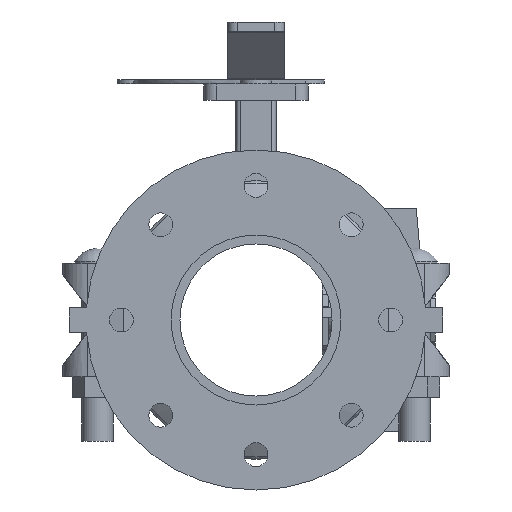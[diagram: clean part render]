
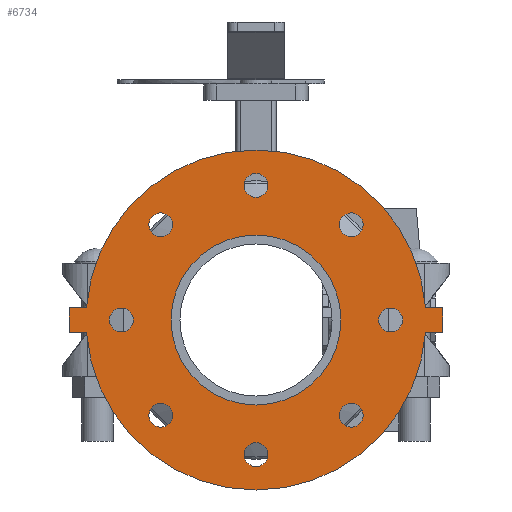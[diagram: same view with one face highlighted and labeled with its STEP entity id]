
A CAD part, front view. The second image highlights one B-rep face of the part: STEP entity #6734.
In plain terms, the highlighted planar face has unit normal (0, -1, 0) as drawn and (0, 0, -1) by its records, which use the part's own axes.
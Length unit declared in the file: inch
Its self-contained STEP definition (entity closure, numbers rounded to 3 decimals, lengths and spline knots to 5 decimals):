
#159=FACE_BOUND('',#834,.T.);
#160=FACE_BOUND('',#835,.T.);
#161=FACE_BOUND('',#836,.T.);
#162=FACE_BOUND('',#837,.T.);
#163=FACE_BOUND('',#838,.T.);
#164=FACE_BOUND('',#839,.T.);
#165=FACE_BOUND('',#840,.T.);
#166=FACE_BOUND('',#841,.T.);
#167=FACE_BOUND('',#842,.T.);
#244=PLANE('',#7299);
#462=FACE_OUTER_BOUND('',#833,.T.);
#833=EDGE_LOOP('',(#4374,#4375,#4376,#4377,#4378,#4379,#4380,#4381));
#834=EDGE_LOOP('',(#4382));
#835=EDGE_LOOP('',(#4383));
#836=EDGE_LOOP('',(#4384));
#837=EDGE_LOOP('',(#4385));
#838=EDGE_LOOP('',(#4386));
#839=EDGE_LOOP('',(#4387));
#840=EDGE_LOOP('',(#4388));
#841=EDGE_LOOP('',(#4389));
#842=EDGE_LOOP('',(#4390));
#1268=LINE('',#10213,#1787);
#1271=LINE('',#10219,#1790);
#1274=LINE('',#10224,#1793);
#1276=LINE('',#10229,#1795);
#1280=LINE('',#10236,#1799);
#1282=LINE('',#10239,#1801);
#1787=VECTOR('',#8129,0.3937);
#1790=VECTOR('',#8134,0.3937);
#1793=VECTOR('',#8139,0.3937);
#1795=VECTOR('',#8143,0.3937);
#1799=VECTOR('',#8149,0.3937);
#1801=VECTOR('',#8153,0.3937);
#2294=CIRCLE('',#7261,0.315);
#2296=CIRCLE('',#7264,0.315);
#2298=CIRCLE('',#7267,0.315);
#2300=CIRCLE('',#7270,0.315);
#2302=CIRCLE('',#7273,0.315);
#2304=CIRCLE('',#7276,0.315);
#2306=CIRCLE('',#7279,0.315);
#2308=CIRCLE('',#7282,0.315);
#2309=CIRCLE('',#7284,2.25);
#2311=CIRCLE('',#7287,4.5);
#2314=CIRCLE('',#7291,4.5);
#2681=VERTEX_POINT('',#10142);
#2683=VERTEX_POINT('',#10148);
#2685=VERTEX_POINT('',#10154);
#2687=VERTEX_POINT('',#10160);
#2689=VERTEX_POINT('',#10166);
#2691=VERTEX_POINT('',#10172);
#2693=VERTEX_POINT('',#10178);
#2695=VERTEX_POINT('',#10184);
#2696=VERTEX_POINT('',#10188);
#2698=VERTEX_POINT('',#10194);
#2700=VERTEX_POINT('',#10197);
#2702=VERTEX_POINT('',#10203);
#2705=VERTEX_POINT('',#10208);
#2706=VERTEX_POINT('',#10212);
#2708=VERTEX_POINT('',#10218);
#2710=VERTEX_POINT('',#10227);
#2711=VERTEX_POINT('',#10228);
#3329=EDGE_CURVE('',#2681,#2681,#2294,.T.);
#3332=EDGE_CURVE('',#2683,#2683,#2296,.T.);
#3335=EDGE_CURVE('',#2685,#2685,#2298,.T.);
#3338=EDGE_CURVE('',#2687,#2687,#2300,.T.);
#3341=EDGE_CURVE('',#2689,#2689,#2302,.T.);
#3344=EDGE_CURVE('',#2691,#2691,#2304,.T.);
#3347=EDGE_CURVE('',#2693,#2693,#2306,.T.);
#3350=EDGE_CURVE('',#2695,#2695,#2308,.T.);
#3351=EDGE_CURVE('',#2696,#2696,#2309,.T.);
#3355=EDGE_CURVE('',#2698,#2700,#2311,.T.);
#3361=EDGE_CURVE('',#2705,#2702,#2314,.T.);
#3362=EDGE_CURVE('',#2700,#2706,#1268,.T.);
#3365=EDGE_CURVE('',#2708,#2705,#1271,.T.);
#3368=EDGE_CURVE('',#2706,#2708,#1274,.T.);
#3370=EDGE_CURVE('',#2710,#2711,#1276,.T.);
#3374=EDGE_CURVE('',#2702,#2710,#1280,.T.);
#3376=EDGE_CURVE('',#2711,#2698,#1282,.T.);
#4374=ORIENTED_EDGE('',*,*,#3376,.F.);
#4375=ORIENTED_EDGE('',*,*,#3370,.F.);
#4376=ORIENTED_EDGE('',*,*,#3374,.F.);
#4377=ORIENTED_EDGE('',*,*,#3361,.F.);
#4378=ORIENTED_EDGE('',*,*,#3365,.F.);
#4379=ORIENTED_EDGE('',*,*,#3368,.F.);
#4380=ORIENTED_EDGE('',*,*,#3362,.F.);
#4381=ORIENTED_EDGE('',*,*,#3355,.F.);
#4382=ORIENTED_EDGE('',*,*,#3329,.T.);
#4383=ORIENTED_EDGE('',*,*,#3332,.T.);
#4384=ORIENTED_EDGE('',*,*,#3335,.T.);
#4385=ORIENTED_EDGE('',*,*,#3338,.T.);
#4386=ORIENTED_EDGE('',*,*,#3341,.T.);
#4387=ORIENTED_EDGE('',*,*,#3344,.T.);
#4388=ORIENTED_EDGE('',*,*,#3347,.T.);
#4389=ORIENTED_EDGE('',*,*,#3350,.T.);
#4390=ORIENTED_EDGE('',*,*,#3351,.T.);
#6734=ADVANCED_FACE('',(#462,#159,#160,#161,#162,#163,#164,#165,#166,#167),
#244,.F.);
#7261=AXIS2_PLACEMENT_3D('',#10144,#8053,#8054);
#7264=AXIS2_PLACEMENT_3D('',#10150,#8060,#8061);
#7267=AXIS2_PLACEMENT_3D('',#10156,#8067,#8068);
#7270=AXIS2_PLACEMENT_3D('',#10162,#8074,#8075);
#7273=AXIS2_PLACEMENT_3D('',#10168,#8081,#8082);
#7276=AXIS2_PLACEMENT_3D('',#10174,#8088,#8089);
#7279=AXIS2_PLACEMENT_3D('',#10180,#8095,#8096);
#7282=AXIS2_PLACEMENT_3D('',#10186,#8102,#8103);
#7284=AXIS2_PLACEMENT_3D('',#10189,#8106,#8107);
#7287=AXIS2_PLACEMENT_3D('',#10198,#8114,#8115);
#7291=AXIS2_PLACEMENT_3D('',#10210,#8125,#8126);
#7299=AXIS2_PLACEMENT_3D('',#10242,#8157,#8158);
#8053=DIRECTION('center_axis',(0.,0.,1.));
#8054=DIRECTION('ref_axis',(-0.707,-0.707,0.));
#8060=DIRECTION('center_axis',(0.,0.,1.));
#8061=DIRECTION('ref_axis',(-1.,0.,0.));
#8067=DIRECTION('center_axis',(0.,0.,1.));
#8068=DIRECTION('ref_axis',(-0.707,0.707,0.));
#8074=DIRECTION('center_axis',(0.,0.,1.));
#8075=DIRECTION('ref_axis',(0.,1.,0.));
#8081=DIRECTION('center_axis',(0.,0.,1.));
#8082=DIRECTION('ref_axis',(0.707,0.707,0.));
#8088=DIRECTION('center_axis',(0.,0.,1.));
#8089=DIRECTION('ref_axis',(1.,0.,0.));
#8095=DIRECTION('center_axis',(0.,0.,1.));
#8096=DIRECTION('ref_axis',(0.707,-0.707,0.));
#8102=DIRECTION('center_axis',(0.,0.,1.));
#8103=DIRECTION('ref_axis',(0.,-1.,0.));
#8106=DIRECTION('center_axis',(0.,0.,1.));
#8107=DIRECTION('ref_axis',(0.,-1.,0.));
#8114=DIRECTION('center_axis',(0.,0.,1.));
#8115=DIRECTION('ref_axis',(0.,1.,0.));
#8125=DIRECTION('center_axis',(0.,0.,1.));
#8126=DIRECTION('ref_axis',(0.,1.,0.));
#8129=DIRECTION('',(0.,-1.,0.));
#8134=DIRECTION('',(0.,1.,0.));
#8139=DIRECTION('',(1.,0.,0.));
#8143=DIRECTION('',(-1.,0.,0.));
#8149=DIRECTION('',(0.,1.,0.));
#8153=DIRECTION('',(0.,-1.,0.));
#8157=DIRECTION('center_axis',(0.,0.,1.));
#8158=DIRECTION('ref_axis',(0.,1.,0.));
#10142=CARTESIAN_POINT('',(-2.2981,2.74357,0.));
#10144=CARTESIAN_POINT('Origin',(-2.52084,2.52084,0.));
#10148=CARTESIAN_POINT('',(0.315,3.565,0.));
#10150=CARTESIAN_POINT('Origin',(0.,3.565,0.));
#10154=CARTESIAN_POINT('',(2.74357,2.2981,0.));
#10156=CARTESIAN_POINT('Origin',(2.52084,2.52084,0.));
#10160=CARTESIAN_POINT('',(3.565,-0.315,0.));
#10162=CARTESIAN_POINT('Origin',(3.565,0.,0.));
#10166=CARTESIAN_POINT('',(2.2981,-2.74357,0.));
#10168=CARTESIAN_POINT('Origin',(2.52084,-2.52084,0.));
#10172=CARTESIAN_POINT('',(-0.315,-3.565,0.));
#10174=CARTESIAN_POINT('Origin',(0.,-3.565,0.));
#10178=CARTESIAN_POINT('',(-2.74357,-2.2981,0.));
#10180=CARTESIAN_POINT('Origin',(-2.52084,-2.52084,0.));
#10184=CARTESIAN_POINT('',(-3.565,0.315,0.));
#10186=CARTESIAN_POINT('Origin',(-3.565,0.,0.));
#10188=CARTESIAN_POINT('',(0.,2.25,0.));
#10189=CARTESIAN_POINT('Origin',(0.,0.,0.));
#10194=CARTESIAN_POINT('',(-0.32,4.48861,0.));
#10197=CARTESIAN_POINT('',(-0.32,-4.48861,0.));
#10198=CARTESIAN_POINT('Origin',(0.,0.,0.));
#10203=CARTESIAN_POINT('',(0.32,4.48861,0.));
#10208=CARTESIAN_POINT('',(0.32,-4.48861,0.));
#10210=CARTESIAN_POINT('Origin',(0.,0.,0.));
#10212=CARTESIAN_POINT('',(-0.32,-4.94,0.));
#10213=CARTESIAN_POINT('',(-0.32,-4.48861,0.));
#10218=CARTESIAN_POINT('',(0.32,-4.94,0.));
#10219=CARTESIAN_POINT('',(0.32,-4.94,0.));
#10224=CARTESIAN_POINT('',(-0.32,-4.94,0.));
#10227=CARTESIAN_POINT('',(0.32,4.94,0.));
#10228=CARTESIAN_POINT('',(-0.32,4.94,0.));
#10229=CARTESIAN_POINT('',(0.32,4.94,0.));
#10236=CARTESIAN_POINT('',(0.32,4.48861,0.));
#10239=CARTESIAN_POINT('',(-0.32,4.94,0.));
#10242=CARTESIAN_POINT('Origin',(0.,4.73391,
0.));
